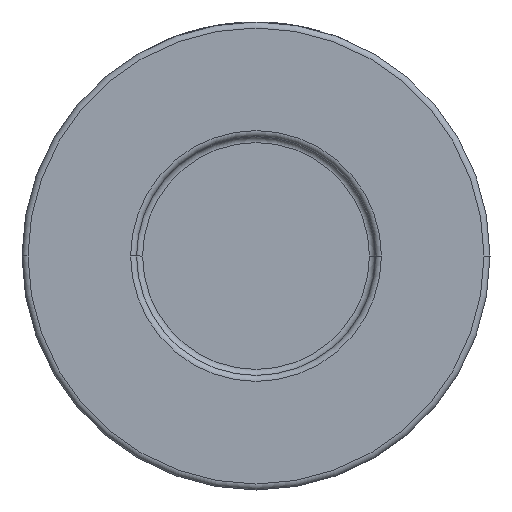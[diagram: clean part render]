
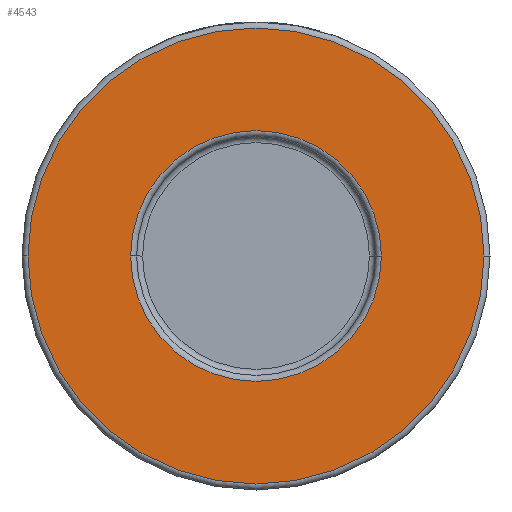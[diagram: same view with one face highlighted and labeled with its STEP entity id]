
A CAD part, front view. The second image highlights one B-rep face of the part: STEP entity #4543.
In plain terms, the highlighted planar face has unit normal (0, -1, 0).
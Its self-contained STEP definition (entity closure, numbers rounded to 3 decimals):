
#67 = DIRECTION ( 'NONE',  ( 0., -1., 0. ) ) ;
#326 = CIRCLE ( 'NONE', #4224, 20.9 ) ;
#328 = EDGE_CURVE ( 'NONE', #478, #4385, #2805, .T. ) ;
#403 = DIRECTION ( 'NONE',  ( 0., -1., 0. ) ) ;
#478 = VERTEX_POINT ( 'NONE', #648 ) ;
#648 = CARTESIAN_POINT ( 'NONE',  ( -38., -19., 0. ) ) ;
#693 = CARTESIAN_POINT ( 'NONE',  ( 0., -19., 0. ) ) ;
#988 = VERTEX_POINT ( 'NONE', #3382 ) ;
#1067 = CIRCLE ( 'NONE', #2011, 20.9 ) ;
#1263 = DIRECTION ( 'NONE',  ( 0., -1., 0. ) ) ;
#1288 = FACE_OUTER_BOUND ( 'NONE', #1927, .T. ) ;
#1333 = DIRECTION ( 'NONE',  ( 1., 0., 0. ) ) ;
#1728 = CARTESIAN_POINT ( 'NONE',  ( 0., -19., 0. ) ) ;
#1751 = CARTESIAN_POINT ( 'NONE',  ( -20.9, -19., 0. ) ) ;
#1754 = CARTESIAN_POINT ( 'NONE',  ( 0., -19., 0. ) ) ;
#1803 = DIRECTION ( 'NONE',  ( 1., 0., 0. ) ) ;
#1927 = EDGE_LOOP ( 'NONE', ( #2152, #4511 ) ) ;
#2011 = AXIS2_PLACEMENT_3D ( 'NONE', #1728, #3187, #2740 ) ;
#2152 = ORIENTED_EDGE ( 'NONE', *, *, #2425, .T. ) ;
#2312 = EDGE_LOOP ( 'NONE', ( #3552, #4445 ) ) ;
#2361 = CIRCLE ( 'NONE', #3925, 38. ) ;
#2425 = EDGE_CURVE ( 'NONE', #4385, #478, #2361, .T. ) ;
#2460 = CARTESIAN_POINT ( 'NONE',  ( 38., -19., 0. ) ) ;
#2674 = AXIS2_PLACEMENT_3D ( 'NONE', #4448, #1263, #4079 ) ;
#2687 = FACE_BOUND ( 'NONE', #2312, .T. ) ;
#2740 = DIRECTION ( 'NONE',  ( 1., 0., 0. ) ) ;
#2805 = CIRCLE ( 'NONE', #4138, 38. ) ;
#3187 = DIRECTION ( 'NONE',  ( 0., 1., 0. ) ) ;
#3218 = CARTESIAN_POINT ( 'NONE',  ( 0., -19., 0. ) ) ;
#3382 = CARTESIAN_POINT ( 'NONE',  ( 20.9, -19., 0. ) ) ;
#3455 = EDGE_CURVE ( 'NONE', #4099, #988, #326, .T. ) ;
#3552 = ORIENTED_EDGE ( 'NONE', *, *, #4027, .T. ) ;
#3925 = AXIS2_PLACEMENT_3D ( 'NONE', #3218, #67, #1803 ) ;
#4027 = EDGE_CURVE ( 'NONE', #988, #4099, #1067, .T. ) ;
#4079 = DIRECTION ( 'NONE',  ( 1., 0., 0. ) ) ;
#4099 = VERTEX_POINT ( 'NONE', #1751 ) ;
#4138 = AXIS2_PLACEMENT_3D ( 'NONE', #1754, #403, #4230 ) ;
#4224 = AXIS2_PLACEMENT_3D ( 'NONE', #693, #4491, #1333 ) ;
#4230 = DIRECTION ( 'NONE',  ( 1., 0., 0. ) ) ;
#4385 = VERTEX_POINT ( 'NONE', #2460 ) ;
#4422 = PLANE ( 'NONE',  #2674 ) ;
#4445 = ORIENTED_EDGE ( 'NONE', *, *, #3455, .T. ) ;
#4448 = CARTESIAN_POINT ( 'NONE',  ( 39., -19., 0. ) ) ;
#4491 = DIRECTION ( 'NONE',  ( 0., 1., 0. ) ) ;
#4511 = ORIENTED_EDGE ( 'NONE', *, *, #328, .T. ) ;
#4543 = ADVANCED_FACE ( 'NONE', ( #2687, #1288 ), #4422, .T. ) ;
